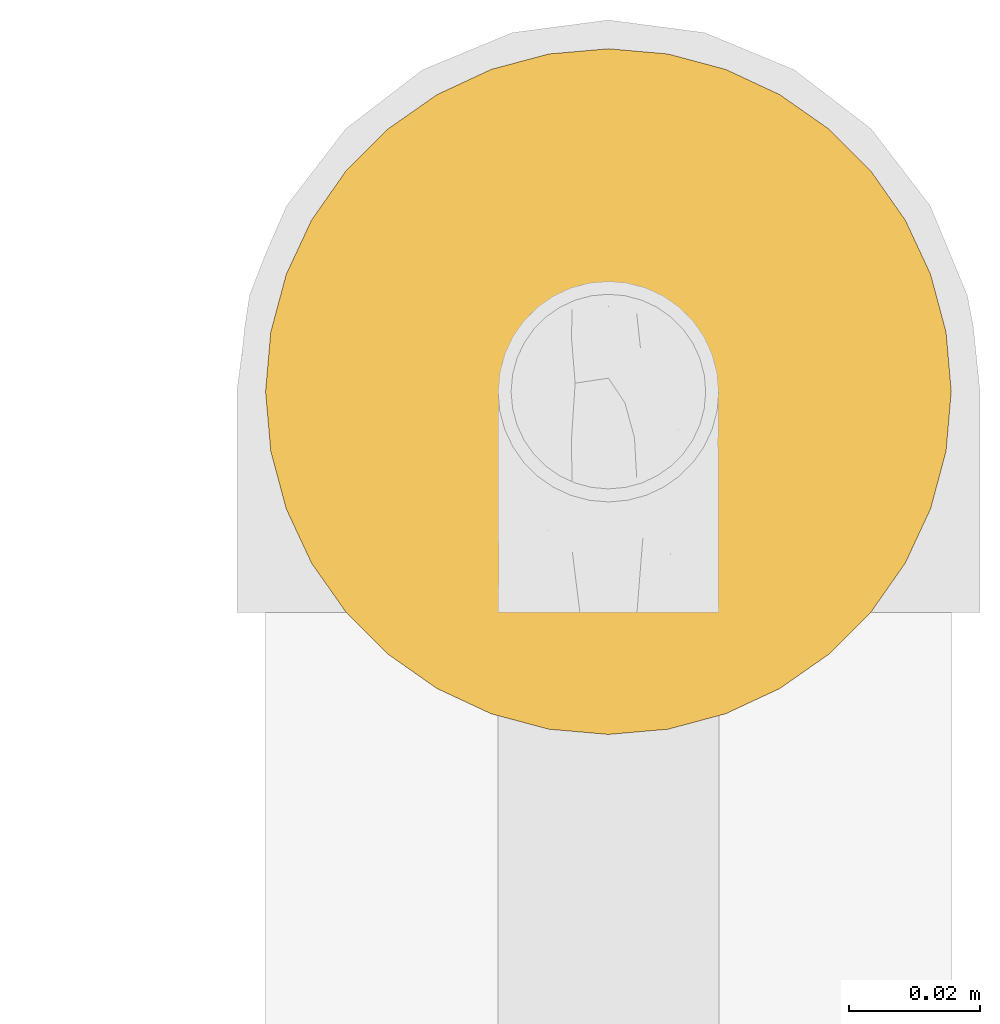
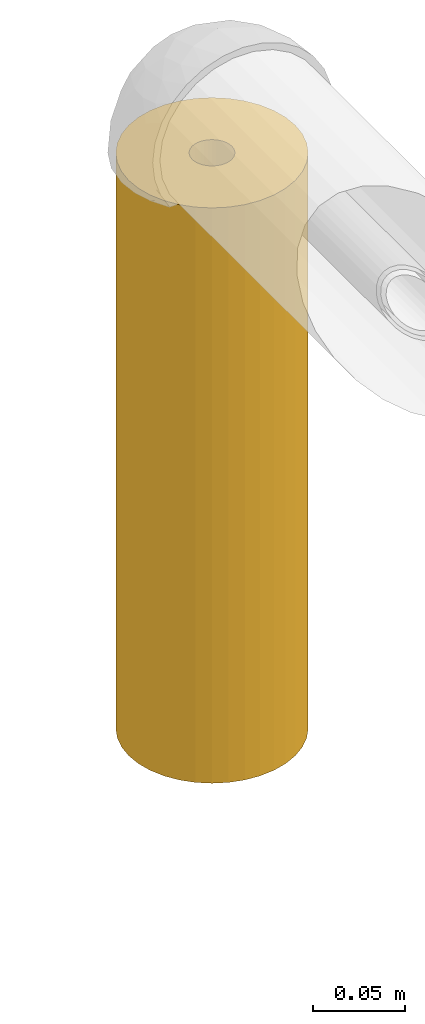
# One storey, part 3 of 17: 1 covering.
"""IFC2X3 building model written with IfcOpenShell, lengths in millimetres."""

import ifcopenshell
import ifcopenshell.guid

model = None  # the IFC model being written
_history = None  # IfcOwnerHistory: only IFC2X3 demands one
_inside = {}  # id of a spatial element -> (the spatial element, [elements in it])
_under = {}  # id of a project, library or spatial element -> (it, [spatial elements below it])
_declared = {}  # id of a project -> (the project, [libraries it declares])
_typed = {}  # id of a type object -> (the type object, [elements of that type])
_made_of = {}  # id of a material, layer set ... -> (it, [elements and type objects made of it])


def new_model(schema):
    """Start an empty IFC model of exactly this schema.

    Asked for "IFC4X3", IfcOpenShell would pick the latest addendum, in which some entities
    have other attributes; the version numbers below select the first issue.
    IFC2X3 requires an IfcOwnerHistory on every rooted entity: one is made here for all.
    """
    global model, _history
    if schema == "IFC4X3":
        model = ifcopenshell.file(schema_version=(4, 3, 0, 0))
    else:
        model = ifcopenshell.file(schema=schema)
    _inside.clear()
    _under.clear()
    _declared.clear()
    _typed.clear()
    _made_of.clear()
    _history = None
    if model.schema == "IFC2X3":
        org = make("IfcOrganization", Name="unknown")
        user = make(
            "IfcPersonAndOrganization",
            ThePerson=make("IfcPerson", FamilyName="unknown"),
            TheOrganization=org,
        )
        app = make(
            "IfcApplication",
            ApplicationDeveloper=org,
            Version="unknown",
            ApplicationFullName="unknown",
            ApplicationIdentifier="unknown",
        )
        _history = make(
            "IfcOwnerHistory",
            OwningUser=user,
            OwningApplication=app,
            ChangeAction="ADDED",
            CreationDate=0,
        )
    return model


def make(cls, **values):
    """One entity of the class cls with the attributes given. An attribute that is None is left unset."""
    return model.create_entity(
        cls, **{name: value for name, value in values.items() if value is not None}
    )


def entity(cls, *values):
    """Any entity or typed value of the class cls, its attributes in the order of the schema. None: left unset."""
    e = model.create_entity(cls)
    for i, value in enumerate(values):
        if value is not None:
            e[i] = value
    return e


def rooted(cls, **values):
    """An entity with a GlobalId (a new one), such as an element, a storey or a relation."""
    return make(cls, GlobalId=ifcopenshell.guid.new(), OwnerHistory=_history, **values)


def si_unit(unit_type, name, prefix=None):
    """IfcSIUnit, for example si_unit("LENGTHUNIT", "METRE", prefix="MILLI")."""
    return make("IfcSIUnit", UnitType=unit_type, Prefix=prefix, Name=name)


def converted_unit(unit_type, name, factor, base, dimensions=None, offset=None):
    """IfcConversionBasedUnit, such as the inch: factor (a typed value) times the base unit."""
    return make(
        "IfcConversionBasedUnit"
        if offset is None
        else "IfcConversionBasedUnitWithOffset",
        ConversionOffset=offset,
        Dimensions=None
        if dimensions is None
        else entity("IfcDimensionalExponents", *dimensions),
        UnitType=unit_type,
        Name=name,
        ConversionFactor=make(
            "IfcMeasureWithUnit", ValueComponent=factor, UnitComponent=base
        ),
    )


def derived_unit(unit_type, elements):
    """IfcDerivedUnit: a product of units, each with its exponent."""
    return make(
        "IfcDerivedUnit",
        Elements=[
            make("IfcDerivedUnitElement", Unit=unit, Exponent=power)
            for unit, power in elements
        ],
        UnitType=unit_type,
    )


def assignment(units):
    """IfcUnitAssignment: the units of a project."""
    return None if units is None else make("IfcUnitAssignment", Units=units)


def point(xyz):
    """IfcCartesianPoint."""
    return None if xyz is None else make("IfcCartesianPoint", Coordinates=xyz)


def direction(xyz):
    """IfcDirection."""
    return None if xyz is None else make("IfcDirection", DirectionRatios=xyz)


def frame(location, z_axis=None, x_axis=None):
    """IfcAxis2Placement3D, a coordinate frame: its origin and axes. An axis left out is left unset."""
    return make(
        "IfcAxis2Placement3D",
        Location=point(location),
        Axis=direction(z_axis),
        RefDirection=direction(x_axis),
    )


def place(relative_to, where):
    """IfcLocalPlacement: puts the frame where relative to a parent placement (None: the world)."""
    return make(
        "IfcLocalPlacement", PlacementRelTo=relative_to, RelativePlacement=where
    )


def context(
    kind, dimensions, precision=None, world=None, true_north=None, identifier=None
):
    """IfcGeometricRepresentationContext, for example the 3D "Model" context."""
    return make(
        "IfcGeometricRepresentationContext",
        ContextIdentifier=identifier,
        ContextType=kind,
        CoordinateSpaceDimension=dimensions,
        Precision=precision,
        WorldCoordinateSystem=world,
        TrueNorth=true_north,
    )


def subcontext(parent, identifier, kind, view, scale=None):
    """IfcGeometricRepresentationSubContext, for example "Body" below "Model"."""
    return make(
        "IfcGeometricRepresentationSubContext",
        ContextIdentifier=identifier,
        ContextType=kind,
        ParentContext=parent,
        TargetScale=scale,
        TargetView=view,
    )


def project(units=None, contexts=None):
    """IfcProject with its units and contexts."""
    return rooted(
        "IfcProject",
        Name="project",
        RepresentationContexts=contexts,
        UnitsInContext=assignment(units),
    )


def spatial(cls, under=None, at=None, **own):
    """A site, building, storey or space (cls), placed at a placement, below another one or the project."""
    s = rooted(cls, ObjectPlacement=at, **own)
    if under is not None:
        _under.setdefault(under.id(), (under, []))[1].append(s)
    return s


def faces_of(points, faces, orient=None, outer=None):
    """IfcFace entities. A face is a list of loops; a loop is a list of indices into points, from 0.

    orient and outer hold one flag for each loop. By default every Orientation is true, the
    first loop of a face is its IfcFaceOuterBound and the others are IfcFaceBound.
    """
    made = []
    for i, loops in enumerate(faces):
        bounds = []
        for j, loop in enumerate(loops):
            is_outer = j == 0 if outer is None else outer[i][j]
            bounds.append(
                make(
                    "IfcFaceOuterBound" if is_outer else "IfcFaceBound",
                    Bound=make("IfcPolyLoop", Polygon=[points[k] for k in loop]),
                    Orientation=True if orient is None else orient[i][j],
                )
            )
        made.append(make("IfcFace", Bounds=bounds))
    return made


def faceted_brep(points, faces, orient=None, outer=None, voids=None):
    """IfcFacetedBrep: a solid bounded by flat faces; with voids (closed shells), ...WithVoids."""
    shared = [point(p) for p in points]
    hull = make("IfcClosedShell", CfsFaces=faces_of(shared, faces, orient, outer))
    if voids is None:
        return make("IfcFacetedBrep", Outer=hull)
    return make(
        "IfcFacetedBrepWithVoids",
        Outer=hull,
        Voids=[
            make(cls, CfsFaces=faces_of(shared, fs, o, b)) for cls, fs, o, b in voids
        ],
    )


def shape(context_of_items, identifier, shape_type, items):
    """IfcShapeRepresentation: the items that make up one representation, for example the "Body"."""
    return make(
        "IfcShapeRepresentation",
        ContextOfItems=context_of_items,
        RepresentationIdentifier=identifier,
        RepresentationType=shape_type,
        Items=items,
    )


def made_of(thing, what):
    """Note that an element or type object is made of a material, layer set ...; save() writes the relation."""
    if what is not None:
        _made_of.setdefault(what.id(), (what, []))[1].append(thing)
    return thing


def element(
    cls,
    number,
    at=None,
    inside=None,
    cuts=None,
    type_object=None,
    material=None,
    context=None,
    identifier="Body",
    shape_type=None,
    held_by="IfcProductDefinitionShape",
    body=None,
    shapes=None,
    **own,
):
    """One element of the class cls, such as IfcWall. Its Tag is "e" and its number.

    at: its placement. inside: the storey or other place that contains it. cuts: it is an
    opening in that element (IfcRelVoidsElement). A single representation is given by context,
    identifier, shape_type and body (its items); several are given by shapes. held_by: the class
    of the entity that holds the representations. save() writes the other relations.
    """
    e = rooted(cls, Tag="e%d" % number, ObjectPlacement=at, **own)
    if body is not None:
        shapes = [shape(context, identifier, shape_type, body)]
    if shapes is not None:
        e.Representation = make(held_by, Representations=shapes)
    if inside is not None:
        _inside.setdefault(inside.id(), (inside, []))[1].append(e)
    if cuts is not None:
        rooted(
            "IfcRelVoidsElement", RelatingBuildingElement=cuts, RelatedOpeningElement=e
        )
    if type_object is not None:
        _typed.setdefault(type_object.id(), (type_object, []))[1].append(e)
    return made_of(e, material)


def aggregate(whole, parts):
    """IfcRelAggregates: a whole, such as a stair, and the parts it consists of."""
    return rooted("IfcRelAggregates", RelatingObject=whole, RelatedObjects=parts)


def save(model, path):
    """Write the relations noted so far, then the file.

    IfcRelAggregates (storeys below a building ...), IfcRelContainedInSpatialStructure (elements
    in a storey), IfcRelDefinesByType, IfcRelAssociatesMaterial and IfcRelDeclares: one each for
    every whole, place, type object, material and project.
    """
    for whole, parts in _under.values():
        aggregate(whole, parts)
    for where, things in _inside.values():
        rooted(
            "IfcRelContainedInSpatialStructure",
            RelatedElements=things,
            RelatingStructure=where,
        )
    for kind, things in _typed.values():
        rooted("IfcRelDefinesByType", RelatedObjects=things, RelatingType=kind)
    for what, things in _made_of.values():
        rooted("IfcRelAssociatesMaterial", RelatedObjects=things, RelatingMaterial=what)
    for by, libraries in _declared.values():
        rooted("IfcRelDeclares", RelatingContext=by, RelatedDefinitions=libraries)
    model.write(path)


model = new_model("IFC2X3")

# Units and contexts
model_context = context("Model", 3, precision=0.01, world=frame((0.0, 4.29681676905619e-09, 0.0)), true_north=direction((4.01073788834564e-13, 1.0)))
plan_context = context("Plan", 3, precision=0.01, world=frame((0.0, 4.29681676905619e-09, 0.0)), true_north=direction((4.01073788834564e-13, 1.0)))
body_context = subcontext(model_context, "Body", "Model", "MODEL_VIEW")
ifc_project = project(units=[converted_unit("PLANEANGLEUNIT", "DEGREE", entity("IfcPositiveLengthMeasure", 0.0174532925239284), si_unit("PLANEANGLEUNIT", "RADIAN"), dimensions=[0, 0, 0, 0, 0, 0, 0]), si_unit("AREAUNIT", "SQUARE_METRE"), si_unit("LENGTHUNIT", "METRE", prefix="MILLI"), si_unit("MASSUNIT", "GRAM", prefix="KILO"), si_unit("POWERUNIT", "WATT"), si_unit("PRESSUREUNIT", "PASCAL", prefix="KILO"), si_unit("FORCEUNIT", "NEWTON", prefix="KILO"), si_unit("ELECTRICVOLTAGEUNIT", "VOLT"), si_unit("ELECTRICCURRENTUNIT", "AMPERE"), si_unit("THERMODYNAMICTEMPERATUREUNIT", "DEGREE_CELSIUS"), si_unit("TIMEUNIT", "SECOND"), si_unit("VOLUMEUNIT", "CUBIC_METRE"), derived_unit("LINEARVELOCITYUNIT", [(si_unit("LENGTHUNIT", "METRE"), 1), (si_unit("TIMEUNIT", "SECOND"), -1)]), derived_unit("VOLUMETRICFLOWRATEUNIT", [(si_unit("VOLUMEUNIT", "CUBIC_METRE"), 1), (si_unit("TIMEUNIT", "SECOND"), -1)]), derived_unit("THERMALTRANSMITTANCEUNIT", [(si_unit("POWERUNIT", "WATT"), 1), (si_unit("THERMODYNAMICTEMPERATUREUNIT", "KELVIN"), -1), (si_unit("AREAUNIT", "SQUARE_METRE"), -1)]), derived_unit("SOUNDPRESSUREUNIT", [(si_unit("PRESSUREUNIT", "PASCAL"), 1)])], contexts=[model_context, plan_context])

# Site, building, storey
site_placement = place(None, frame((0.0, -4.29681676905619e-09, 0.0), z_axis=(0.0, 0.0, 1.0), x_axis=(1.0, 0.0, 0.0)))
site = spatial("IfcSite", under=ifc_project, at=site_placement, Name="ENGM", CompositionType="ELEMENT")
building_placement = place(site_placement, frame((0.0, 4.29681676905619e-09, 0.0), z_axis=(0.0, 0.0, 1.0), x_axis=(1.0, 0.0, 0.0)))
building = spatial("IfcBuilding", under=site, at=building_placement, Name="TI", CompositionType="ELEMENT")
storey_placement = place(building_placement, frame((0.0, 0.0, 207370.0), z_axis=(0.0, 0.0, 1.0), x_axis=(1.0, 0.0, 0.0)))
storey = spatial("IfcBuildingStorey", under=building, at=storey_placement, Name="Nivå E", CompositionType="ELEMENT", Elevation=207370.0)

# Covering
covering_placement = place(storey_placement, frame((598969.96633, 574054.33025, 2140.10000000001), z_axis=(0.0, 1.0, 0.0), x_axis=(0.0, 0.0, 1.0)))
element("IfcCovering", 1, at=covering_placement, inside=storey, Name="BI11T - Rørskål m/Al.folie - varme 60-25", PredefinedType="INSULATION", context=body_context, shape_type="Brep", body=[
    faceted_brep([(389.899999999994, 12.3100969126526, -2.17060222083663), (389.899999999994, 12.5, 0.0), (773.0, 12.5, 0.0), (773.0, 12.3100969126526, -2.17060222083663), (389.899999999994, 11.7461577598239, -4.27525179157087), (773.0, 11.7461577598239, -4.27525179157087), (389.899999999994, 10.8253175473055, -6.25000000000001), (773.0, 10.8253175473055, -6.25000000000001), (389.899999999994, 9.57555553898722, -8.03484512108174), (773.0, 9.57555553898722, -8.03484512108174), (389.899999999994, 8.03484512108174, -9.57555553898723), (773.0, 8.03484512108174, -9.57555553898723), (389.899999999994, 6.25, -10.8253175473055), (773.0, 6.25, -10.8253175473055), (389.899999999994, 4.27525179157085, -11.7461577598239), (773.0, 4.27525179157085, -11.7461577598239), (389.899999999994, 2.17060222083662, -12.3100969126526), (773.0, 2.17060222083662, -12.3100969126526), (389.899999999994, -2.29621274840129e-15, -12.5), (773.0, -2.29621274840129e-15, -12.5), (389.899999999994, -2.17060222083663, -12.3100969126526), (773.0, -2.17060222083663, -12.3100969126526), (389.899999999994, -4.27525179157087, -11.7461577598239), (773.0, -4.27525179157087, -11.7461577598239), (389.899999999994, -6.25000000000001, -10.8253175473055), (773.0, -6.25000000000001, -10.8253175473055), (389.899999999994, -8.03484512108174, -9.57555553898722), (773.0, -8.03484512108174, -9.57555553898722), (389.899999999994, -9.57555553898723, -8.03484512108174), (773.0, -9.57555553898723, -8.03484512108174), (389.899999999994, -10.8253175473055, -6.25), (773.0, -10.8253175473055, -6.25), (389.899999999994, -11.7461577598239, -4.27525179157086), (773.0, -11.7461577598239, -4.27525179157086), (389.899999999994, -12.3100969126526, -2.17060222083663), (773.0, -12.3100969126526, -2.17060222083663), (389.899999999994, -12.5, 1.53080849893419e-15), (773.0, -12.5, 1.53080849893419e-15), (389.899999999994, -12.3100969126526, 2.17060222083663), (773.0, -12.3100969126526, 2.17060222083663), (389.899999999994, -11.7461577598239, 4.27525179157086), (773.0, -11.7461577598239, 4.27525179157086), (389.899999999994, -10.8253175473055, 6.25), (773.0, -10.8253175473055, 6.25), (389.899999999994, -9.57555553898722, 8.03484512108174), (773.0, -9.57555553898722, 8.03484512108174), (389.899999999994, -8.03484512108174, 9.57555553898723), (773.0, -8.03484512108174, 9.57555553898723), (389.899999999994, -6.25, 10.8253175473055), (773.0, -6.25, 10.8253175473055), (389.899999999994, -4.27525179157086, 11.7461577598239), (773.0, -4.27525179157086, 11.7461577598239), (389.899999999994, -2.17060222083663, 12.3100969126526), (773.0, -2.17060222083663, 12.3100969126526), (389.899999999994, 7.65404249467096e-16, 12.5), (773.0, 7.65404249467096e-16, 12.5), (389.899999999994, 2.17060222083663, 12.3100969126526), (773.0, 2.17060222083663, 12.3100969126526), (389.899999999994, 4.27525179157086, 11.7461577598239), (773.0, 4.27525179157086, 11.7461577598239), (389.899999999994, 6.25, 10.8253175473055), (773.0, 6.25, 10.8253175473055), (389.899999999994, 8.03484512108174, 9.57555553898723), (773.0, 8.03484512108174, 9.57555553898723), (389.899999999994, 9.57555553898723, 8.03484512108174), (773.0, 9.57555553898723, 8.03484512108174), (389.899999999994, 10.8253175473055, 6.25), (773.0, 10.8253175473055, 6.25), (389.899999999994, 11.7461577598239, 4.27525179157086), (773.0, 11.7461577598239, 4.27525179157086), (389.899999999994, 12.3100969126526, 2.17060222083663), (773.0, 12.3100969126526, 2.17060222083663), (389.899999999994, 52.5, 0.0), (389.899999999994, 51.7024070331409, -9.11652932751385), (773.0, 51.7024070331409, -9.11652932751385), (773.0, 52.5, 0.0), (389.899999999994, 51.7024070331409, 9.11652932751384), (773.0, 51.7024070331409, 9.11652932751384), (389.899999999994, 49.3338625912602, 17.9560575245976), (773.0, 49.3338625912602, 17.9560575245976), (389.899999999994, 45.466333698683, 26.25), (773.0, 45.466333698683, 26.25), (389.899999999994, 40.2173332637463, 33.7463495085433), (773.0, 40.2173332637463, 33.7463495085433), (389.899999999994, 33.7463495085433, 40.2173332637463), (773.0, 33.7463495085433, 40.2173332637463), (389.899999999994, 26.25, 45.466333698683), (773.0, 26.25, 45.466333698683), (389.899999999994, 17.9560575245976, 49.3338625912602), (773.0, 17.9560575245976, 49.3338625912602), (389.899999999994, 9.11652932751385, 51.7024070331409), (773.0, 9.11652932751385, 51.7024070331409), (389.899999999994, 3.2146978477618e-15, 52.5), (773.0, 3.2146978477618e-15, 52.5), (389.899999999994, -9.11652932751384, 51.7024070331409), (773.0, -9.11652932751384, 51.7024070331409), (389.899999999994, -17.9560575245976, 49.3338625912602), (773.0, -17.9560575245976, 49.3338625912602), (389.899999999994, -26.25, 45.466333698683), (773.0, -26.25, 45.466333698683), (389.899999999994, -33.7463495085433, 40.2173332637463), (773.0, -33.7463495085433, 40.2173332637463), (389.899999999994, -40.2173332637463, 33.7463495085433), (773.0, -40.2173332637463, 33.7463495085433), (389.899999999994, -45.466333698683, 26.25), (773.0, -45.466333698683, 26.25), (389.899999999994, -49.3338625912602, 17.9560575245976), (773.0, -49.3338625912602, 17.9560575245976), (389.899999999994, -51.7024070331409, 9.11652932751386), (773.0, -51.7024070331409, 9.11652932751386), (389.899999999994, -52.5, 6.4293956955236e-15), (773.0, -52.5, 6.4293956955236e-15), (389.899999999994, -51.7024070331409, -9.11652932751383), (773.0, -51.7024070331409, -9.11652932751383), (389.899999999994, -49.3338625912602, -17.9560575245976), (773.0, -49.3338625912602, -17.9560575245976), (389.899999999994, -45.466333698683, -26.25), (773.0, -45.466333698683, -26.25), (389.899999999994, -40.2173332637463, -33.7463495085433), (773.0, -40.2173332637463, -33.7463495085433), (389.899999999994, -33.7463495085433, -40.2173332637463), (773.0, -33.7463495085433, -40.2173332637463), (389.899999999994, -26.25, -45.466333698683), (773.0, -26.25, -45.466333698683), (389.899999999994, -17.9560575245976, -49.3338625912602), (773.0, -17.9560575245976, -49.3338625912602), (389.899999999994, -9.11652932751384, -51.7024070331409), (773.0, -9.11652932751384, -51.7024070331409), (389.899999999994, -9.64409354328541e-15, -52.5), (773.0, -9.64409354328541e-15, -52.5), (389.899999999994, 9.11652932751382, -51.7024070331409), (773.0, 9.11652932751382, -51.7024070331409), (389.899999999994, 17.9560575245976, -49.3338625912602), (773.0, 17.9560575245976, -49.3338625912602), (389.899999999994, 26.25, -45.466333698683), (773.0, 26.25, -45.466333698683), (389.899999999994, 33.7463495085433, -40.2173332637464), (773.0, 33.7463495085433, -40.2173332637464), (389.899999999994, 40.2173332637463, -33.7463495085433), (773.0, 40.2173332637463, -33.7463495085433), (389.899999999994, 45.466333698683, -26.25), (773.0, 45.466333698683, -26.25), (389.899999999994, 49.3338625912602, -17.9560575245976), (773.0, 49.3338625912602, -17.9560575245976)], [[[0, 1, 2, 3]], [[4, 0, 3, 5]], [[6, 4, 5, 7]], [[8, 6, 7, 9]], [[10, 8, 9, 11]], [[12, 10, 11, 13]], [[14, 12, 13, 15]], [[16, 14, 15, 17]], [[18, 16, 17, 19]], [[20, 18, 19, 21]], [[22, 20, 21, 23]], [[24, 22, 23, 25]], [[26, 24, 25, 27]], [[28, 26, 27, 29]], [[30, 28, 29, 31]], [[32, 30, 31, 33]], [[34, 32, 33, 35]], [[36, 34, 35, 37]], [[38, 36, 37, 39]], [[40, 38, 39, 41]], [[42, 40, 41, 43]], [[44, 42, 43, 45]], [[46, 44, 45, 47]], [[48, 46, 47, 49]], [[50, 48, 49, 51]], [[52, 50, 51, 53]], [[54, 52, 53, 55]], [[56, 54, 55, 57]], [[58, 56, 57, 59]], [[60, 58, 59, 61]], [[62, 60, 61, 63]], [[64, 62, 63, 65]], [[66, 64, 65, 67]], [[68, 66, 67, 69]], [[70, 68, 69, 71]], [[1, 70, 71, 2]], [[72, 73, 74, 75]], [[76, 72, 75, 77]], [[78, 76, 77, 79]], [[80, 78, 79, 81]], [[82, 80, 81, 83]], [[84, 82, 83, 85]], [[86, 84, 85, 87]], [[88, 86, 87, 89]], [[90, 88, 89, 91]], [[92, 90, 91, 93]], [[94, 92, 93, 95]], [[96, 94, 95, 97]], [[98, 96, 97, 99]], [[100, 98, 99, 101]], [[102, 100, 101, 103]], [[104, 102, 103, 105]], [[106, 104, 105, 107]], [[108, 106, 107, 109]], [[110, 108, 109, 111]], [[112, 110, 111, 113]], [[114, 112, 113, 115]], [[116, 114, 115, 117]], [[118, 116, 117, 119]], [[120, 118, 119, 121]], [[122, 120, 121, 123]], [[124, 122, 123, 125]], [[126, 124, 125, 127]], [[128, 126, 127, 129]], [[130, 128, 129, 131]], [[132, 130, 131, 133]], [[134, 132, 133, 135]], [[136, 134, 135, 137]], [[138, 136, 137, 139]], [[140, 138, 139, 141]], [[142, 140, 141, 143]], [[73, 142, 143, 74]], [[75, 74, 143, 141, 139, 137, 135, 133, 131, 129, 127, 125, 123, 121, 119, 117, 115, 113, 111, 109, 107, 105, 103, 101, 99, 97, 95, 93, 91, 89, 87, 85, 83, 81, 79, 77], [2, 71, 69, 67, 65, 63, 61, 59, 57, 55, 53, 51, 49, 47, 45, 43, 41, 39, 37, 35, 33, 31, 29, 27, 25, 23, 21, 19, 17, 15, 13, 11, 9, 7, 5, 3]], [[76, 78, 80, 82, 84, 86, 88, 90, 92, 94, 96, 98, 100, 102, 104, 106, 108, 110, 112, 114, 116, 118, 120, 122, 124, 126, 128, 130, 132, 134, 136, 138, 140, 142, 73, 72], [4, 6, 8, 10, 12, 14, 16, 18, 20, 22, 24, 26, 28, 30, 32, 34, 36, 38, 40, 42, 44, 46, 48, 50, 52, 54, 56, 58, 60, 62, 64, 66, 68, 70, 1, 0]]], orient=[[False], [False], [False], [False], [False], [False], [False], [False], [False], [False], [False], [False], [False], [False], [False], [False], [False], [False], [False], [False], [False], [False], [False], [False], [False], [False], [False], [False], [False], [False], [False], [False], [False], [False], [False], [False], [False], [False], [False], [False], [False], [False], [False], [False], [False], [False], [False], [False], [False], [False], [False], [False], [False], [False], [False], [False], [False], [False], [False], [False], [False], [False], [False], [False], [False], [False], [False], [False], [False], [False], [False], [False], [False, False], [False, False]]),
])

save(model, "model.ifc")
